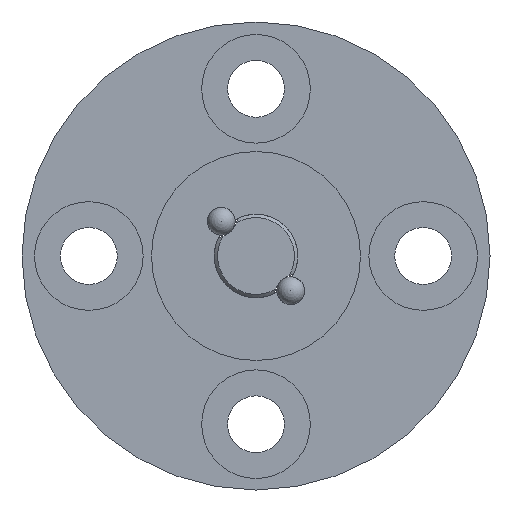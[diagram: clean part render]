
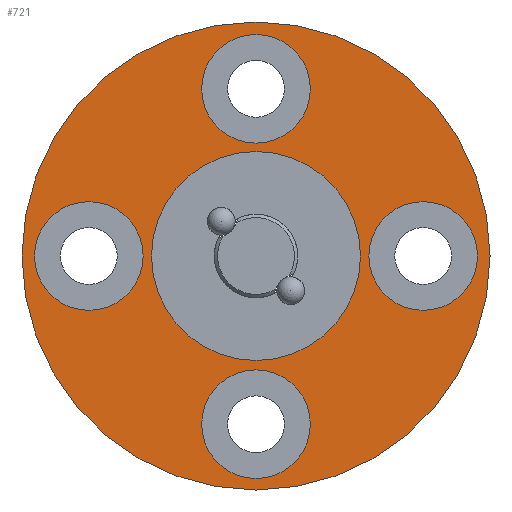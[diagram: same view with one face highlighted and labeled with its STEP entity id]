
A CAD part, left-side view. The second image highlights one B-rep face of the part: STEP entity #721.
In plain terms, the highlighted planar face has unit normal (-1, 0, 0).
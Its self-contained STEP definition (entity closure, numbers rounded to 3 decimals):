
#45=PLANE('',#800);
#80=CIRCLE('',#798,14.);
#82=CIRCLE('',#801,3.25);
#83=CIRCLE('',#802,3.25);
#84=CIRCLE('',#803,3.25);
#85=CIRCLE('',#804,3.25);
#86=CIRCLE('',#805,6.25);
#139=ORIENTED_EDGE('',*,*,#307,.T.);
#140=ORIENTED_EDGE('',*,*,#308,.T.);
#141=ORIENTED_EDGE('',*,*,#309,.T.);
#142=ORIENTED_EDGE('',*,*,#310,.T.);
#143=ORIENTED_EDGE('',*,*,#311,.T.);
#144=ORIENTED_EDGE('',*,*,#305,.T.);
#305=EDGE_CURVE('',#389,#389,#80,.F.);
#307=EDGE_CURVE('',#391,#391,#82,.T.);
#308=EDGE_CURVE('',#392,#392,#83,.T.);
#309=EDGE_CURVE('',#393,#393,#84,.T.);
#310=EDGE_CURVE('',#394,#394,#85,.T.);
#311=EDGE_CURVE('',#395,#395,#86,.T.);
#389=VERTEX_POINT('',#1143);
#391=VERTEX_POINT('',#1148);
#392=VERTEX_POINT('',#1150);
#393=VERTEX_POINT('',#1152);
#394=VERTEX_POINT('',#1154);
#395=VERTEX_POINT('',#1156);
#476=EDGE_LOOP('',(#139));
#477=EDGE_LOOP('',(#140));
#478=EDGE_LOOP('',(#141));
#479=EDGE_LOOP('',(#142));
#480=EDGE_LOOP('',(#143));
#481=EDGE_LOOP('',(#144));
#588=FACE_BOUND('',#476,.T.);
#589=FACE_BOUND('',#477,.T.);
#590=FACE_BOUND('',#478,.T.);
#591=FACE_BOUND('',#479,.T.);
#592=FACE_BOUND('',#480,.T.);
#593=FACE_BOUND('',#481,.T.);
#721=ADVANCED_FACE('',(#588,#589,#590,#591,#592,#593),#45,.F.);
#798=AXIS2_PLACEMENT_3D('',#1142,#911,#912);
#800=AXIS2_PLACEMENT_3D('',#1146,#915,#916);
#801=AXIS2_PLACEMENT_3D('',#1147,#917,#918);
#802=AXIS2_PLACEMENT_3D('',#1149,#919,#920);
#803=AXIS2_PLACEMENT_3D('',#1151,#921,#922);
#804=AXIS2_PLACEMENT_3D('',#1153,#923,#924);
#805=AXIS2_PLACEMENT_3D('',#1155,#925,#926);
#911=DIRECTION('',(1.,0.,0.));
#912=DIRECTION('',(0.,0.,-1.));
#915=DIRECTION('',(1.,0.,0.));
#916=DIRECTION('',(0.,0.,-1.));
#917=DIRECTION('',(1.,0.,0.));
#918=DIRECTION('',(0.,0.,1.));
#919=DIRECTION('',(1.,0.,0.));
#920=DIRECTION('',(0.,0.,1.));
#921=DIRECTION('',(1.,0.,0.));
#922=DIRECTION('',(0.,0.,-1.));
#923=DIRECTION('',(1.,0.,0.));
#924=DIRECTION('',(0.,-1.,0.));
#925=DIRECTION('',(1.,0.,0.));
#926=DIRECTION('',(0.,0.,-1.));
#1142=CARTESIAN_POINT('',(-10.5,0.,0.));
#1143=CARTESIAN_POINT('',(-10.5,0.,-14.));
#1146=CARTESIAN_POINT('',(-10.5,14.5,0.));
#1147=CARTESIAN_POINT('',(-10.5,10.,0.));
#1148=CARTESIAN_POINT('',(-10.5,10.,3.25));
#1149=CARTESIAN_POINT('',(-10.5,-10.,0.));
#1150=CARTESIAN_POINT('',(-10.5,-10.,3.25));
#1151=CARTESIAN_POINT('',(-10.5,0.,-10.064));
#1152=CARTESIAN_POINT('',(-10.5,0.,-13.314));
#1153=CARTESIAN_POINT('',(-10.5,0.,10.));
#1154=CARTESIAN_POINT('',(-10.5,-3.25,10.));
#1155=CARTESIAN_POINT('',(-10.5,0.,0.));
#1156=CARTESIAN_POINT('',(-10.5,0.,-6.25));
